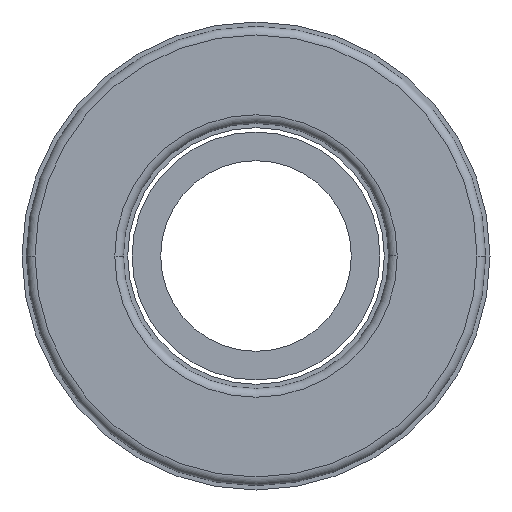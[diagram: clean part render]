
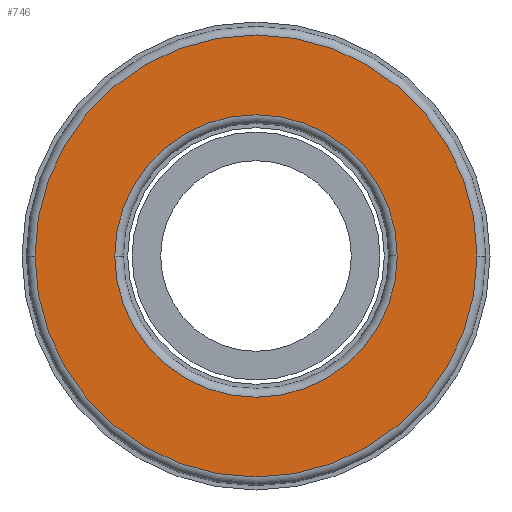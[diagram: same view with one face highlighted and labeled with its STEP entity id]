
A CAD part, front view. The second image highlights one B-rep face of the part: STEP entity #746.
In plain terms, the highlighted planar face has unit normal (0, -1, 0).
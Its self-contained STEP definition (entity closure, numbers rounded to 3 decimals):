
#335=CARTESIAN_POINT('',(0.,-3.,0.));
#336=DIRECTION('',(0.,-1.,0.));
#337=DIRECTION('',(1.,0.,0.));
#338=AXIS2_PLACEMENT_3D('',#335,#336,#337);
#340=CARTESIAN_POINT('',(0.,-3.,0.));
#341=DIRECTION('',(0.,-1.,0.));
#342=DIRECTION('',(-1.,0.,0.));
#343=AXIS2_PLACEMENT_3D('',#340,#341,#342);
#345=CARTESIAN_POINT('',(0.,-3.,0.));
#346=DIRECTION('',(0.,1.,0.));
#347=DIRECTION('',(-1.,0.,0.));
#348=AXIS2_PLACEMENT_3D('',#345,#346,#347);
#350=CARTESIAN_POINT('',(0.,-3.,0.));
#351=DIRECTION('',(0.,1.,0.));
#352=DIRECTION('',(1.,0.,0.));
#353=AXIS2_PLACEMENT_3D('',#350,#351,#352);
#443=CARTESIAN_POINT('',(25.5,-3.,0.));
#444=CARTESIAN_POINT('',(-25.5,-3.,0.));
#445=VERTEX_POINT('',#443);
#446=VERTEX_POINT('',#444);
#451=CARTESIAN_POINT('',(-16.3,-3.,0.));
#452=CARTESIAN_POINT('',(16.3,-3.,0.));
#453=VERTEX_POINT('',#451);
#454=VERTEX_POINT('',#452);
#730=CARTESIAN_POINT('',(0.,-3.,0.));
#731=DIRECTION('',(0.,-1.,0.));
#732=DIRECTION('',(1.,0.,0.));
#733=AXIS2_PLACEMENT_3D('',#730,#731,#732);
#734=PLANE('',#733);
#736=ORIENTED_EDGE('',*,*,#735,.F.);
#738=ORIENTED_EDGE('',*,*,#737,.F.);
#739=EDGE_LOOP('',(#736,#738));
#740=FACE_OUTER_BOUND('',#739,.F.);
#742=ORIENTED_EDGE('',*,*,#741,.F.);
#743=ORIENTED_EDGE('',*,*,#720,.F.);
#744=EDGE_LOOP('',(#742,#743));
#745=FACE_BOUND('',#744,.F.);
#339=CIRCLE('',#338,25.5);
#344=CIRCLE('',#343,25.5);
#349=CIRCLE('',#348,16.3);
#354=CIRCLE('',#353,16.3);
#720=EDGE_CURVE('',#454,#453,#354,.T.);
#735=EDGE_CURVE('',#445,#446,#339,.T.);
#737=EDGE_CURVE('',#446,#445,#344,.T.);
#741=EDGE_CURVE('',#453,#454,#349,.T.);
#746=ADVANCED_FACE('',(#740,#745),#734,.T.);
